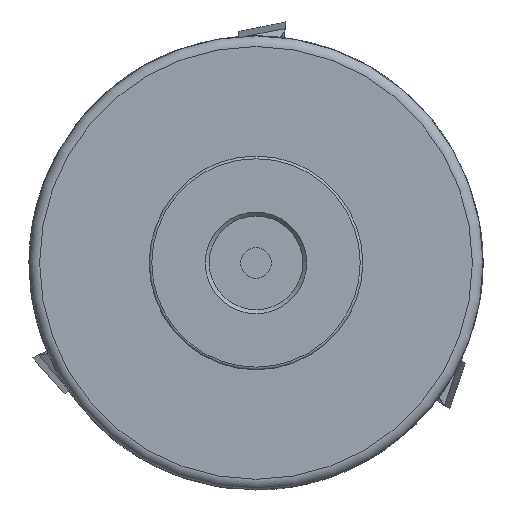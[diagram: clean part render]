
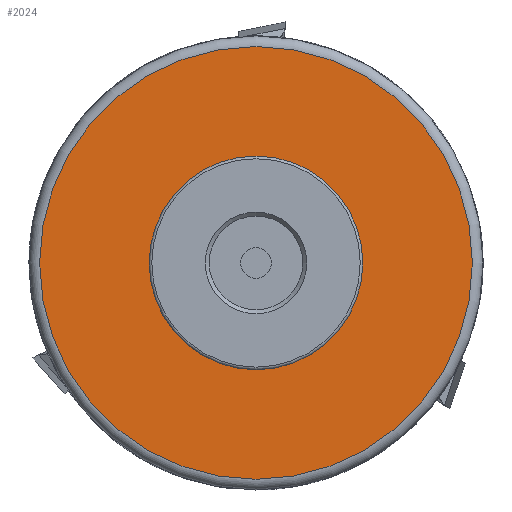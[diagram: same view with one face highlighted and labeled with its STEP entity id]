
A CAD part, front view. The second image highlights one B-rep face of the part: STEP entity #2024.
In plain terms, the highlighted planar face has unit normal (0, -1, 0).
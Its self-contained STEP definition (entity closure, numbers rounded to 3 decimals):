
#105=PLANE('',#2237);
#159=FACE_BOUND('',#610,.T.);
#495=FACE_OUTER_BOUND('',#609,.T.);
#609=EDGE_LOOP('',(#1420,#1421));
#610=EDGE_LOOP('',(#1422,#1423));
#728=CIRCLE('',#2224,16.2);
#733=CIRCLE('',#2229,16.2);
#737=CIRCLE('',#2238,7.5);
#738=CIRCLE('',#2239,7.5);
#849=VERTEX_POINT('',#3062);
#850=VERTEX_POINT('',#3063);
#879=VERTEX_POINT('',#3294);
#880=VERTEX_POINT('',#3295);
#1066=EDGE_CURVE('',#849,#850,#728,.T.);
#1071=EDGE_CURVE('',#850,#849,#733,.T.);
#1098=EDGE_CURVE('',#879,#880,#737,.T.);
#1099=EDGE_CURVE('',#880,#879,#738,.T.);
#1420=ORIENTED_EDGE('',*,*,#1066,.F.);
#1421=ORIENTED_EDGE('',*,*,#1071,.F.);
#1422=ORIENTED_EDGE('',*,*,#1098,.F.);
#1423=ORIENTED_EDGE('',*,*,#1099,.F.);
#2024=ADVANCED_FACE('',(#495,#159),#105,.T.);
#2224=AXIS2_PLACEMENT_3D('',#3064,#2464,#2465);
#2229=AXIS2_PLACEMENT_3D('',#3072,#2474,#2475);
#2237=AXIS2_PLACEMENT_3D('',#3293,#2500,#2501);
#2238=AXIS2_PLACEMENT_3D('',#3296,#2502,#2503);
#2239=AXIS2_PLACEMENT_3D('',#3297,#2504,#2505);
#2464=DIRECTION('center_axis',(0.,1.,0.));
#2465=DIRECTION('ref_axis',(-1.,0.,0.));
#2474=DIRECTION('center_axis',(0.,1.,0.));
#2475=DIRECTION('ref_axis',(-1.,0.,0.));
#2500=DIRECTION('center_axis',(0.,-1.,0.));
#2501=DIRECTION('ref_axis',(0.,0.,-1.));
#2502=DIRECTION('center_axis',(0.,-1.,0.));
#2503=DIRECTION('ref_axis',(1.,0.,0.));
#2504=DIRECTION('center_axis',(0.,-1.,0.));
#2505=DIRECTION('ref_axis',(1.,0.,0.));
#3062=CARTESIAN_POINT('',(16.2,49.5,0.));
#3063=CARTESIAN_POINT('',(0.,49.5,16.2));
#3064=CARTESIAN_POINT('Origin',(0.,49.5,0.));
#3072=CARTESIAN_POINT('Origin',(0.,49.5,0.));
#3293=CARTESIAN_POINT('Origin',(7.5,49.5,0.));
#3294=CARTESIAN_POINT('',(7.5,49.5,0.));
#3295=CARTESIAN_POINT('',(-7.5,49.5,0.));
#3296=CARTESIAN_POINT('Origin',(0.,49.5,0.));
#3297=CARTESIAN_POINT('Origin',(0.,49.5,0.));
